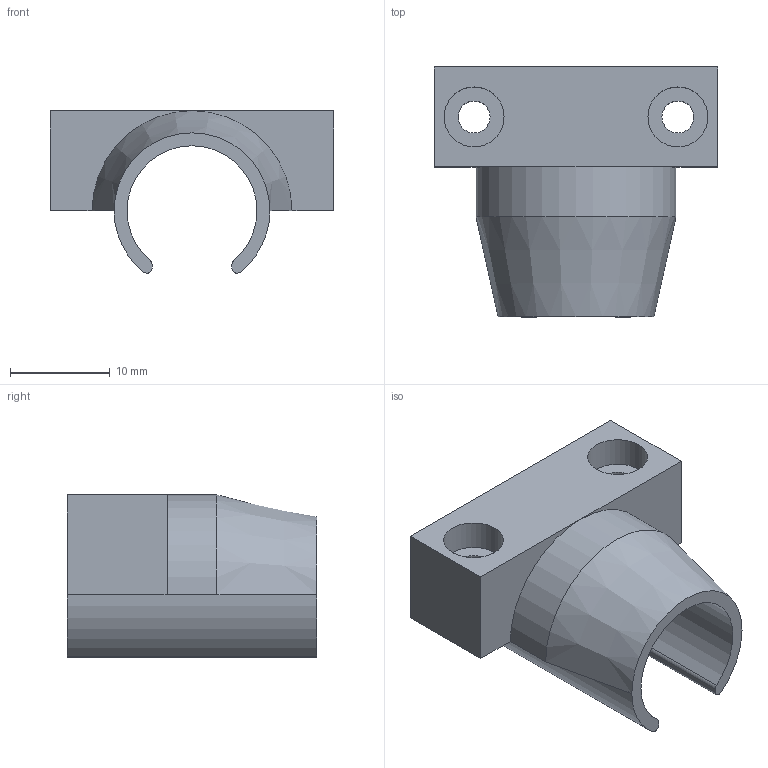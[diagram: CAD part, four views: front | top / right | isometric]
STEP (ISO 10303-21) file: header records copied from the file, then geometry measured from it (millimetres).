
FILE_DESCRIPTION(/* description */ (''),/* implementation_level */ '2;1');
FILE_NAME(/* name */ '1-16-1 Front light holder.step',/* time_stamp */ '2025-05-10T21:34:26+02:00',/* author */ (''),/* organization */ (''),/* preprocessor_version */ 'ST-DEVELOPER v20.1',/* originating_system */ 'Autodesk Translation Framework v14.4.0.0',/* authorisation */ '');
FILE_SCHEMA (('AUTOMOTIVE_DESIGN { 1 0 10303 214 3 1 1 }'));
Length unit declared in the file: millimetre
Products named in the file (1): 1-16-1 Front light holder
Bounding box: 28.4 x 25 x 16.25 mm (x, y, z)
Volume: 3377.5 mm3; surface area: 2974.9 mm2
Topology: 1 solids, 1 shells, 26 faces, 63 edges, 41 vertices
Faces by surface type: plane 13, cylinder 12, cone 1
Full cylindrical faces by diameter (mm): 3.2 x2, 6 x2
Entity records: 817 total; most frequent: DIRECTION 143, CARTESIAN_POINT 131, ORIENTED_EDGE 126, EDGE_CURVE 63, AXIS2_PLACEMENT_3D 53, VERTEX_POINT 41, LINE 37, VECTOR 37
